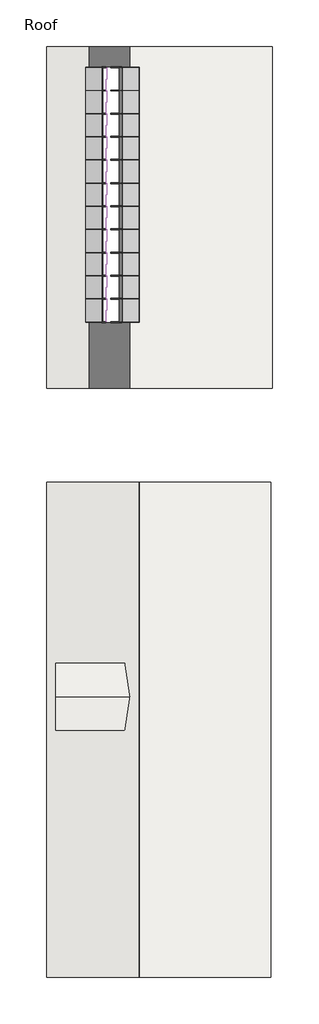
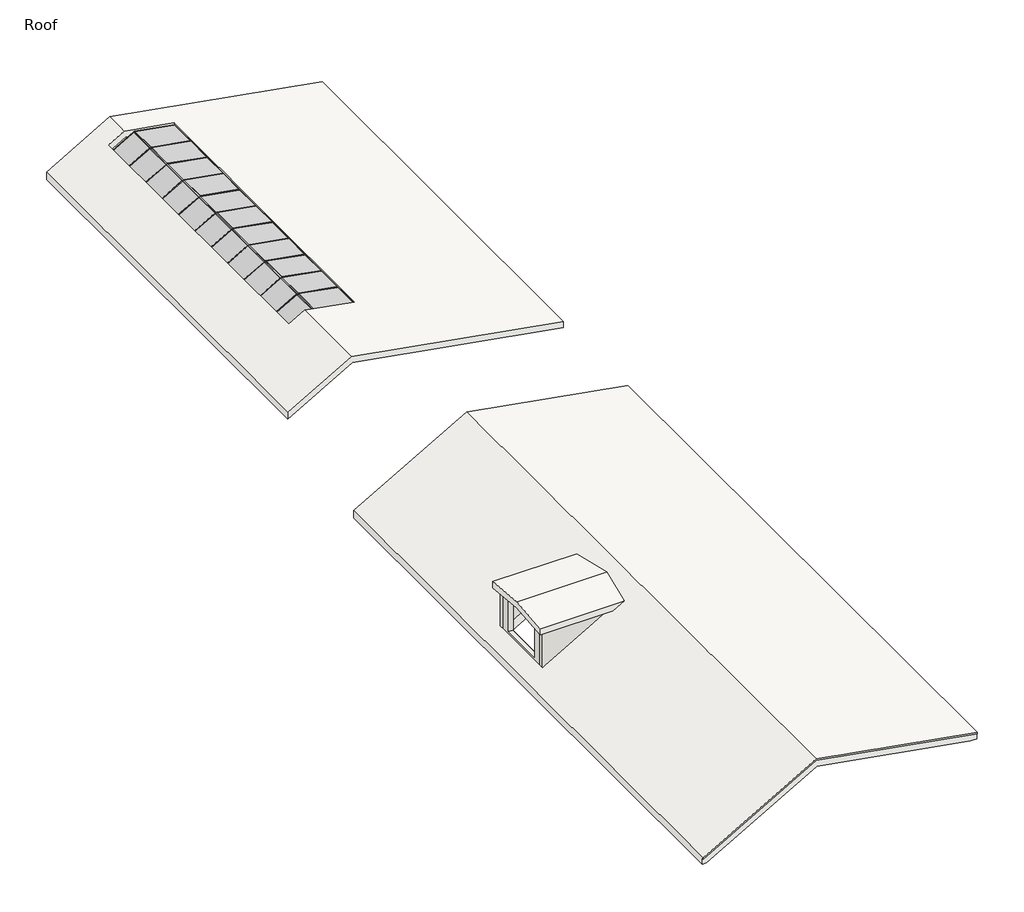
# One storey, incomplete: 57 members, 22 plates, 3 roofs, 3 walls.
"""IFC4 building model written with IfcOpenShell, lengths in millimetres."""

from ifc_helpers import new_model, si_unit, origin, place, context, project, spatial, faceted_brep, transform, mapped, element, save
from components import member_d7cafd72, member_a5deebae, member_a99f958b, member_c32c0941, member_48f43a20, member_13c44480, member_bfb63071, member_f87ed6db, member_73da9355, member_e1c899d2, system_panel_glazed_f9f6d654, system_panel_glazed_e8f19e38

model = new_model("IFC4")

# Units and contexts
model_context = context("Model", 3, world=origin())
ifc_project = project(units=[si_unit("LENGTHUNIT", "METRE", prefix="MILLI")], contexts=[model_context])

# Site, building, storey
site = spatial("IfcSite", under=ifc_project)
building = spatial("IfcBuilding", under=site)
storey = spatial("IfcBuildingStorey", under=building, Name="Roof", Elevation=6096.0)

# Members
placement = place(None, origin())
member_shape = member_d7cafd72(model_context)
element("IfcMember", 1, ObjectType="Quad Corner Mullion : 3\" x 1 1/2\" Quad Mullion", at=placement, inside=storey, context=model_context, shape_type="MappedRepresentation", body=[
    mapped(member_shape, transform((-4507.4611096, 25018.8084583, 7362.7570887), x_axis=(-0.9848077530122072, 0.0, 0.17364817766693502), y_axis=(-0.17364817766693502, 0.0, -0.9848077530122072), z_axis=(0.0, -1.0, 0.0))),
])
member_2_shape = member_a5deebae(model_context)
element("IfcMember", 2, ObjectType="Quad Corner Mullion : 3\" x 1 1/2\" Quad Mullion", at=placement, inside=storey, context=model_context, shape_type="MappedRepresentation", body=[
    mapped(member_2_shape, transform((-4507.4611096, 25910.6948222, 7362.7570887), x_axis=(-0.9848077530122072, 0.0, 0.17364817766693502), y_axis=(-0.17364817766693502, 0.0, -0.9848077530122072), z_axis=(0.0, -1.0, 0.0))),
])
element("IfcMember", 3, ObjectType="Quad Corner Mullion : 3\" x 1 1/2\" Quad Mullion", at=placement, inside=storey, context=model_context, shape_type="MappedRepresentation", body=[
    mapped(member_2_shape, transform((-4507.4611096, 26821.6311858, 7362.7570887), x_axis=(-0.9848077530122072, 0.0, 0.17364817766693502), y_axis=(-0.17364817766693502, 0.0, -0.9848077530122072), z_axis=(0.0, -1.0, 0.0))),
])
element("IfcMember", 4, ObjectType="Quad Corner Mullion : 3\" x 1 1/2\" Quad Mullion", at=placement, inside=storey, context=model_context, shape_type="MappedRepresentation", body=[
    mapped(member_2_shape, transform((-4507.4611096, 27732.5675493, 7362.7570887), x_axis=(-0.9848077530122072, 0.0, 0.17364817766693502), y_axis=(-0.17364817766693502, 0.0, -0.9848077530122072), z_axis=(0.0, -1.0, 0.0))),
])
element("IfcMember", 5, ObjectType="Quad Corner Mullion : 3\" x 1 1/2\" Quad Mullion", at=placement, inside=storey, context=model_context, shape_type="MappedRepresentation", body=[
    mapped(member_2_shape, transform((-4507.4611096, 28643.5039129, 7362.7570887), x_axis=(-0.9848077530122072, 0.0, 0.17364817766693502), y_axis=(-0.17364817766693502, 0.0, -0.9848077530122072), z_axis=(0.0, -1.0, 0.0))),
])
element("IfcMember", 6, ObjectType="Quad Corner Mullion : 3\" x 1 1/2\" Quad Mullion", at=placement, inside=storey, context=model_context, shape_type="MappedRepresentation", body=[
    mapped(member_2_shape, transform((-4507.4611096, 29554.4402765, 7362.7570887), x_axis=(-0.9848077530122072, 0.0, 0.17364817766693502), y_axis=(-0.17364817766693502, 0.0, -0.9848077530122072), z_axis=(0.0, -1.0, 0.0))),
])
element("IfcMember", 7, ObjectType="Quad Corner Mullion : 3\" x 1 1/2\" Quad Mullion", at=placement, inside=storey, context=model_context, shape_type="MappedRepresentation", body=[
    mapped(member_2_shape, transform((-4507.4611096, 30465.3766401, 7362.7570887), x_axis=(-0.9848077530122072, 0.0, 0.17364817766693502), y_axis=(-0.17364817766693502, 0.0, -0.9848077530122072), z_axis=(0.0, -1.0, 0.0))),
])
element("IfcMember", 8, ObjectType="Quad Corner Mullion : 3\" x 1 1/2\" Quad Mullion", at=placement, inside=storey, context=model_context, shape_type="MappedRepresentation", body=[
    mapped(member_2_shape, transform((-4507.4611096, 31376.3130037, 7362.7570887), x_axis=(-0.9848077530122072, 0.0, 0.17364817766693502), y_axis=(-0.17364817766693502, 0.0, -0.9848077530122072), z_axis=(0.0, -1.0, 0.0))),
])
element("IfcMember", 9, ObjectType="Quad Corner Mullion : 3\" x 1 1/2\" Quad Mullion", at=placement, inside=storey, context=model_context, shape_type="MappedRepresentation", body=[
    mapped(member_2_shape, transform((-4507.4611096, 32287.2493672, 7362.7570887), x_axis=(-0.9848077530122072, 0.0, 0.17364817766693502), y_axis=(-0.17364817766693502, 0.0, -0.9848077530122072), z_axis=(0.0, -1.0, 0.0))),
])
element("IfcMember", 10, ObjectType="Quad Corner Mullion : 3\" x 1 1/2\" Quad Mullion", at=placement, inside=storey, context=model_context, shape_type="MappedRepresentation", body=[
    mapped(member_2_shape, transform((-4507.4611096, 33198.1857308, 7362.7570887), x_axis=(-0.9848077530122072, 0.0, 0.17364817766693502), y_axis=(-0.17364817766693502, 0.0, -0.9848077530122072), z_axis=(0.0, -1.0, 0.0))),
])
element("IfcMember", 11, ObjectType="Quad Corner Mullion : 3\" x 1 1/2\" Quad Mullion", at=placement, inside=storey, context=model_context, shape_type="MappedRepresentation", body=[
    mapped(member_shape, transform((-4507.4611096, 34109.1220944, 7362.7570887), x_axis=(-0.9848077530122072, 0.0, 0.17364817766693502), y_axis=(-0.17364817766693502, 0.0, -0.9848077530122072), z_axis=(0.0, -1.0, 0.0))),
])
member_3_shape = member_a99f958b(model_context)
element("IfcMember", 12, ObjectType="Rectangular Mullion : 1.5\" x 3\" Rectangular", at=placement, inside=storey, context=model_context, shape_type="MappedRepresentation", body=[
    mapped(member_3_shape, transform((-3217.5401664, 35001.0084583, 7135.3092234), x_axis=(0.9848077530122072, 0.0, -0.17364817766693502), y_axis=(-0.17364817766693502, 0.0, -0.9848077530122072), z_axis=(0.0, 1.0, 0.0))),
])
element("IfcMember", 13, ObjectType="Rectangular Mullion : 1.5\" x 3\" Rectangular", at=placement, inside=storey, context=model_context, shape_type="MappedRepresentation", body=[
    mapped(member_3_shape, transform((-5351.1401664, 25018.8084583, 6875.6587582), x_axis=(-0.8660254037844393, 0.0, -0.49999999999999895), y_axis=(0.49999999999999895, 0.0, -0.8660254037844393), z_axis=(0.0, -1.0, 0.0))),
])
element("IfcMember", 14, ObjectType="Rectangular Mullion : 1.5\" x 3\" Rectangular", at=placement, inside=storey, context=model_context, shape_type="MappedRepresentation", body=[
    mapped(member_3_shape, transform((-3217.5401664, 25910.6948222, 7135.3092234), x_axis=(0.9848077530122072, 0.0, -0.17364817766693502), y_axis=(-0.17364817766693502, 0.0, -0.9848077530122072), z_axis=(0.0, 1.0, 0.0))),
])
element("IfcMember", 15, ObjectType="Rectangular Mullion : 1.5\" x 3\" Rectangular", at=placement, inside=storey, context=model_context, shape_type="MappedRepresentation", body=[
    mapped(member_3_shape, transform((-5351.1401664, 34109.1220944, 6875.6587582), x_axis=(-0.8660254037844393, 0.0, -0.49999999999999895), y_axis=(0.49999999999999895, 0.0, -0.8660254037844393), z_axis=(0.0, -1.0, 0.0))),
])
member_4_shape = member_c32c0941(model_context)
element("IfcMember", 16, ObjectType="Rectangular Mullion : 1.5\" x 3\" Rectangular", at=placement, inside=storey, context=model_context, shape_type="MappedRepresentation", body=[
    mapped(member_4_shape, transform((-3217.5401664, 26821.6311858, 7135.3092234), x_axis=(0.9848077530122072, 0.0, -0.17364817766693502), y_axis=(-0.17364817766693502, 0.0, -0.9848077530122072), z_axis=(0.0, 1.0, 0.0))),
])
element("IfcMember", 17, ObjectType="Rectangular Mullion : 1.5\" x 3\" Rectangular", at=placement, inside=storey, context=model_context, shape_type="MappedRepresentation", body=[
    mapped(member_4_shape, transform((-3217.5401664, 27732.5675493, 7135.3092234), x_axis=(0.9848077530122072, 0.0, -0.17364817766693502), y_axis=(-0.17364817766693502, 0.0, -0.9848077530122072), z_axis=(0.0, 1.0, 0.0))),
])
element("IfcMember", 18, ObjectType="Rectangular Mullion : 1.5\" x 3\" Rectangular", at=placement, inside=storey, context=model_context, shape_type="MappedRepresentation", body=[
    mapped(member_4_shape, transform((-3217.5401664, 28643.5039129, 7135.3092234), x_axis=(0.9848077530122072, 0.0, -0.17364817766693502), y_axis=(-0.17364817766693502, 0.0, -0.9848077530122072), z_axis=(0.0, 1.0, 0.0))),
])
element("IfcMember", 19, ObjectType="Rectangular Mullion : 1.5\" x 3\" Rectangular", at=placement, inside=storey, context=model_context, shape_type="MappedRepresentation", body=[
    mapped(member_4_shape, transform((-3217.5401664, 29554.4402765, 7135.3092234), x_axis=(0.9848077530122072, 0.0, -0.17364817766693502), y_axis=(-0.17364817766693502, 0.0, -0.9848077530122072), z_axis=(0.0, 1.0, 0.0))),
])
element("IfcMember", 20, ObjectType="Rectangular Mullion : 1.5\" x 3\" Rectangular", at=placement, inside=storey, context=model_context, shape_type="MappedRepresentation", body=[
    mapped(member_4_shape, transform((-3217.5401664, 30465.3766401, 7135.3092234), x_axis=(0.9848077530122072, 0.0, -0.17364817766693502), y_axis=(-0.17364817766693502, 0.0, -0.9848077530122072), z_axis=(0.0, 1.0, 0.0))),
])
element("IfcMember", 21, ObjectType="Rectangular Mullion : 1.5\" x 3\" Rectangular", at=placement, inside=storey, context=model_context, shape_type="MappedRepresentation", body=[
    mapped(member_4_shape, transform((-3217.5401664, 31376.3130037, 7135.3092234), x_axis=(0.9848077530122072, 0.0, -0.17364817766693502), y_axis=(-0.17364817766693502, 0.0, -0.9848077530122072), z_axis=(0.0, 1.0, 0.0))),
])
element("IfcMember", 22, ObjectType="Rectangular Mullion : 1.5\" x 3\" Rectangular", at=placement, inside=storey, context=model_context, shape_type="MappedRepresentation", body=[
    mapped(member_4_shape, transform((-3217.5401664, 32287.2493672, 7135.3092234), x_axis=(0.9848077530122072, 0.0, -0.17364817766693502), y_axis=(-0.17364817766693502, 0.0, -0.9848077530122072), z_axis=(0.0, 1.0, 0.0))),
])
element("IfcMember", 23, ObjectType="Rectangular Mullion : 1.5\" x 3\" Rectangular", at=placement, inside=storey, context=model_context, shape_type="MappedRepresentation", body=[
    mapped(member_4_shape, transform((-3217.5401664, 33198.1857308, 7135.3092234), x_axis=(0.9848077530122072, 0.0, -0.17364817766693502), y_axis=(-0.17364817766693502, 0.0, -0.9848077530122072), z_axis=(0.0, 1.0, 0.0))),
])
element("IfcMember", 24, ObjectType="Rectangular Mullion : 1.5\" x 3\" Rectangular", at=placement, inside=storey, context=model_context, shape_type="MappedRepresentation", body=[
    mapped(member_4_shape, transform((-3217.5401664, 34109.1220944, 7135.3092234), x_axis=(0.9848077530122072, 0.0, -0.17364817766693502), y_axis=(-0.17364817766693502, 0.0, -0.9848077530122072), z_axis=(0.0, 1.0, 0.0))),
])
element("IfcMember", 25, ObjectType="Rectangular Mullion : 1.5\" x 3\" Rectangular", at=placement, inside=storey, context=model_context, shape_type="MappedRepresentation", body=[
    mapped(member_4_shape, transform((-5351.1401664, 25910.6948222, 6875.6587582), x_axis=(-0.8660254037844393, 0.0, -0.49999999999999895), y_axis=(0.49999999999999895, 0.0, -0.8660254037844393), z_axis=(0.0, -1.0, 0.0))),
])
element("IfcMember", 26, ObjectType="Rectangular Mullion : 1.5\" x 3\" Rectangular", at=placement, inside=storey, context=model_context, shape_type="MappedRepresentation", body=[
    mapped(member_4_shape, transform((-5351.1401664, 26821.6311858, 6875.6587582), x_axis=(-0.8660254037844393, 0.0, -0.49999999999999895), y_axis=(0.49999999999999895, 0.0, -0.8660254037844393), z_axis=(0.0, -1.0, 0.0))),
])
element("IfcMember", 27, ObjectType="Rectangular Mullion : 1.5\" x 3\" Rectangular", at=placement, inside=storey, context=model_context, shape_type="MappedRepresentation", body=[
    mapped(member_4_shape, transform((-5351.1401664, 27732.5675493, 6875.6587582), x_axis=(-0.8660254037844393, 0.0, -0.49999999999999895), y_axis=(0.49999999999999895, 0.0, -0.8660254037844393), z_axis=(0.0, -1.0, 0.0))),
])
element("IfcMember", 28, ObjectType="Rectangular Mullion : 1.5\" x 3\" Rectangular", at=placement, inside=storey, context=model_context, shape_type="MappedRepresentation", body=[
    mapped(member_4_shape, transform((-5351.1401664, 28643.5039129, 6875.6587582), x_axis=(-0.8660254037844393, 0.0, -0.49999999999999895), y_axis=(0.49999999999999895, 0.0, -0.8660254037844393), z_axis=(0.0, -1.0, 0.0))),
])
element("IfcMember", 29, ObjectType="Rectangular Mullion : 1.5\" x 3\" Rectangular", at=placement, inside=storey, context=model_context, shape_type="MappedRepresentation", body=[
    mapped(member_4_shape, transform((-5351.1401664, 29554.4402765, 6875.6587582), x_axis=(-0.8660254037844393, 0.0, -0.49999999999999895), y_axis=(0.49999999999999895, 0.0, -0.8660254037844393), z_axis=(0.0, -1.0, 0.0))),
])
element("IfcMember", 30, ObjectType="Rectangular Mullion : 1.5\" x 3\" Rectangular", at=placement, inside=storey, context=model_context, shape_type="MappedRepresentation", body=[
    mapped(member_4_shape, transform((-5351.1401664, 30465.3766401, 6875.6587582), x_axis=(-0.8660254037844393, 0.0, -0.49999999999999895), y_axis=(0.49999999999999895, 0.0, -0.8660254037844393), z_axis=(0.0, -1.0, 0.0))),
])
element("IfcMember", 31, ObjectType="Rectangular Mullion : 1.5\" x 3\" Rectangular", at=placement, inside=storey, context=model_context, shape_type="MappedRepresentation", body=[
    mapped(member_4_shape, transform((-5351.1401664, 31376.3130037, 6875.6587582), x_axis=(-0.8660254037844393, 0.0, -0.49999999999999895), y_axis=(0.49999999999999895, 0.0, -0.8660254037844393), z_axis=(0.0, -1.0, 0.0))),
])
element("IfcMember", 32, ObjectType="Rectangular Mullion : 1.5\" x 3\" Rectangular", at=placement, inside=storey, context=model_context, shape_type="MappedRepresentation", body=[
    mapped(member_4_shape, transform((-5351.1401664, 32287.2493672, 6875.6587582), x_axis=(-0.8660254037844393, 0.0, -0.49999999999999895), y_axis=(0.49999999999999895, 0.0, -0.8660254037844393), z_axis=(0.0, -1.0, 0.0))),
])
element("IfcMember", 33, ObjectType="Rectangular Mullion : 1.5\" x 3\" Rectangular", at=placement, inside=storey, context=model_context, shape_type="MappedRepresentation", body=[
    mapped(member_4_shape, transform((-5351.1401664, 33198.1857308, 6875.6587582), x_axis=(-0.8660254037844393, 0.0, -0.49999999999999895), y_axis=(0.49999999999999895, 0.0, -0.8660254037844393), z_axis=(0.0, -1.0, 0.0))),
])
member_5_shape = member_48f43a20(model_context)
element("IfcMember", 34, ObjectType="Rectangular Mullion : 1.5\" x 3\" Rectangular", at=placement, inside=storey, context=model_context, shape_type="MappedRepresentation", body=[
    mapped(member_5_shape, transform((-4504.0009995, 25910.6948222, 7362.1469779), x_axis=(0.0, 1.0, 0.0), y_axis=(-0.17364817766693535, 0.0, -0.9848077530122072), z_axis=(-0.984807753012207, 0.0, 0.17364817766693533))),
])
element("IfcMember", 35, ObjectType="Rectangular Mullion : 1.5\" x 3\" Rectangular", at=placement, inside=storey, context=model_context, shape_type="MappedRepresentation", body=[
    mapped(member_5_shape, transform((-4504.0009995, 26821.6311858, 7362.1469779), x_axis=(0.0, 1.0, 0.0), y_axis=(-0.17364817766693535, 0.0, -0.9848077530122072), z_axis=(-0.984807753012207, 0.0, 0.17364817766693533))),
])
element("IfcMember", 36, ObjectType="Rectangular Mullion : 1.5\" x 3\" Rectangular", at=placement, inside=storey, context=model_context, shape_type="MappedRepresentation", body=[
    mapped(member_5_shape, transform((-4504.0009995, 27732.5675493, 7362.1469779), x_axis=(0.0, 1.0, 0.0), y_axis=(-0.17364817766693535, 0.0, -0.9848077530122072), z_axis=(-0.984807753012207, 0.0, 0.17364817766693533))),
])
element("IfcMember", 37, ObjectType="Rectangular Mullion : 1.5\" x 3\" Rectangular", at=placement, inside=storey, context=model_context, shape_type="MappedRepresentation", body=[
    mapped(member_5_shape, transform((-4504.0009995, 28643.5039129, 7362.1469779), x_axis=(0.0, 1.0, 0.0), y_axis=(-0.17364817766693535, 0.0, -0.9848077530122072), z_axis=(-0.984807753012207, 0.0, 0.17364817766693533))),
])
element("IfcMember", 38, ObjectType="Rectangular Mullion : 1.5\" x 3\" Rectangular", at=placement, inside=storey, context=model_context, shape_type="MappedRepresentation", body=[
    mapped(member_5_shape, transform((-4504.0009995, 29554.4402765, 7362.1469779), x_axis=(0.0, 1.0, 0.0), y_axis=(-0.17364817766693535, 0.0, -0.9848077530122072), z_axis=(-0.984807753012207, 0.0, 0.17364817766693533))),
])
element("IfcMember", 39, ObjectType="Rectangular Mullion : 1.5\" x 3\" Rectangular", at=placement, inside=storey, context=model_context, shape_type="MappedRepresentation", body=[
    mapped(member_5_shape, transform((-4504.0009995, 30465.3766401, 7362.1469779), x_axis=(0.0, 1.0, 0.0), y_axis=(-0.17364817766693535, 0.0, -0.9848077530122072), z_axis=(-0.984807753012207, 0.0, 0.17364817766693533))),
])
element("IfcMember", 40, ObjectType="Rectangular Mullion : 1.5\" x 3\" Rectangular", at=placement, inside=storey, context=model_context, shape_type="MappedRepresentation", body=[
    mapped(member_5_shape, transform((-4504.0009995, 31376.3130037, 7362.1469779), x_axis=(0.0, 1.0, 0.0), y_axis=(-0.17364817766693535, 0.0, -0.9848077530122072), z_axis=(-0.984807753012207, 0.0, 0.17364817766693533))),
])
element("IfcMember", 41, ObjectType="Rectangular Mullion : 1.5\" x 3\" Rectangular", at=placement, inside=storey, context=model_context, shape_type="MappedRepresentation", body=[
    mapped(member_5_shape, transform((-4504.0009995, 32287.2493672, 7362.1469779), x_axis=(0.0, 1.0, 0.0), y_axis=(-0.17364817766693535, 0.0, -0.9848077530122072), z_axis=(-0.984807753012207, 0.0, 0.17364817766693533))),
])
element("IfcMember", 42, ObjectType="Rectangular Mullion : 1.5\" x 3\" Rectangular", at=placement, inside=storey, context=model_context, shape_type="MappedRepresentation", body=[
    mapped(member_5_shape, transform((-4504.0009995, 33198.1857308, 7362.1469779), x_axis=(0.0, 1.0, 0.0), y_axis=(-0.17364817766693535, 0.0, -0.9848077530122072), z_axis=(-0.984807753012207, 0.0, 0.17364817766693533))),
])
element("IfcMember", 43, ObjectType="Rectangular Mullion : 1.5\" x 3\" Rectangular", at=placement, inside=storey, context=model_context, shape_type="MappedRepresentation", body=[
    mapped(member_5_shape, transform((-4504.0009995, 34109.1220944, 7362.1469779), x_axis=(0.0, 1.0, 0.0), y_axis=(-0.17364817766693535, 0.0, -0.9848077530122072), z_axis=(-0.984807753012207, 0.0, 0.17364817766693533))),
])
member_6_shape = member_13c44480(model_context)
element("IfcMember", 44, ObjectType="Rectangular Mullion : 1.5\" x 3\" Rectangular", at=placement, inside=storey, context=model_context, shape_type="MappedRepresentation", body=[
    mapped(member_6_shape, transform((-3217.5401664, 24980.7084583, 7135.3092234), x_axis=(0.0, -1.0, 0.0), y_axis=(-0.17364817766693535, 0.0, -0.9848077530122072), z_axis=(0.984807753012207, 0.0, -0.17364817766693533))),
])
member_7_shape = member_bfb63071(model_context)
element("IfcMember", 45, ObjectType="Rectangular Mullion : 1.5\" x 3\" Rectangular", at=placement, inside=storey, context=model_context, shape_type="MappedRepresentation", body=[
    mapped(member_7_shape, transform((-4507.4611096, 35039.1084583, 7362.7570887), x_axis=(0.0, 1.0, 0.0), y_axis=(-0.17364817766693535, 0.0, -0.9848077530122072), z_axis=(-0.984807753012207, 0.0, 0.17364817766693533))),
])
member_8_shape = member_f87ed6db(model_context)
element("IfcMember", 46, ObjectType="Rectangular Mullion : 1.5\" x 3\" Rectangular", at=placement, inside=storey, context=model_context, shape_type="MappedRepresentation", body=[
    mapped(member_8_shape, transform((-5318.1445985, 25910.6948222, 6894.7087582), x_axis=(0.0, 1.0, 0.0), y_axis=(0.4999999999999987, 0.0, -0.8660254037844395), z_axis=(-0.8660254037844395, 0.0, -0.4999999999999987))),
])
element("IfcMember", 47, ObjectType="Rectangular Mullion : 1.5\" x 3\" Rectangular", at=placement, inside=storey, context=model_context, shape_type="MappedRepresentation", body=[
    mapped(member_8_shape, transform((-5318.1445985, 26821.6311858, 6894.7087582), x_axis=(0.0, 1.0, 0.0), y_axis=(0.4999999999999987, 0.0, -0.8660254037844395), z_axis=(-0.8660254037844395, 0.0, -0.4999999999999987))),
])
element("IfcMember", 48, ObjectType="Rectangular Mullion : 1.5\" x 3\" Rectangular", at=placement, inside=storey, context=model_context, shape_type="MappedRepresentation", body=[
    mapped(member_8_shape, transform((-5318.1445985, 27732.5675493, 6894.7087582), x_axis=(0.0, 1.0, 0.0), y_axis=(0.4999999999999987, 0.0, -0.8660254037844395), z_axis=(-0.8660254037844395, 0.0, -0.4999999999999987))),
])
element("IfcMember", 49, ObjectType="Rectangular Mullion : 1.5\" x 3\" Rectangular", at=placement, inside=storey, context=model_context, shape_type="MappedRepresentation", body=[
    mapped(member_8_shape, transform((-5318.1445985, 28643.5039129, 6894.7087582), x_axis=(0.0, 1.0, 0.0), y_axis=(0.4999999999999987, 0.0, -0.8660254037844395), z_axis=(-0.8660254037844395, 0.0, -0.4999999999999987))),
])
element("IfcMember", 50, ObjectType="Rectangular Mullion : 1.5\" x 3\" Rectangular", at=placement, inside=storey, context=model_context, shape_type="MappedRepresentation", body=[
    mapped(member_8_shape, transform((-5318.1445985, 29554.4402765, 6894.7087582), x_axis=(0.0, 1.0, 0.0), y_axis=(0.4999999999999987, 0.0, -0.8660254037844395), z_axis=(-0.8660254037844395, 0.0, -0.4999999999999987))),
])
element("IfcMember", 51, ObjectType="Rectangular Mullion : 1.5\" x 3\" Rectangular", at=placement, inside=storey, context=model_context, shape_type="MappedRepresentation", body=[
    mapped(member_8_shape, transform((-5318.1445985, 30465.3766401, 6894.7087582), x_axis=(0.0, 1.0, 0.0), y_axis=(0.4999999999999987, 0.0, -0.8660254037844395), z_axis=(-0.8660254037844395, 0.0, -0.4999999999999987))),
])
element("IfcMember", 52, ObjectType="Rectangular Mullion : 1.5\" x 3\" Rectangular", at=placement, inside=storey, context=model_context, shape_type="MappedRepresentation", body=[
    mapped(member_8_shape, transform((-5318.1445985, 31376.3130037, 6894.7087582), x_axis=(0.0, 1.0, 0.0), y_axis=(0.4999999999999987, 0.0, -0.8660254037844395), z_axis=(-0.8660254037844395, 0.0, -0.4999999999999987))),
])
element("IfcMember", 53, ObjectType="Rectangular Mullion : 1.5\" x 3\" Rectangular", at=placement, inside=storey, context=model_context, shape_type="MappedRepresentation", body=[
    mapped(member_8_shape, transform((-5318.1445985, 32287.2493672, 6894.7087582), x_axis=(0.0, 1.0, 0.0), y_axis=(0.4999999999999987, 0.0, -0.8660254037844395), z_axis=(-0.8660254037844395, 0.0, -0.4999999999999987))),
])
element("IfcMember", 54, ObjectType="Rectangular Mullion : 1.5\" x 3\" Rectangular", at=placement, inside=storey, context=model_context, shape_type="MappedRepresentation", body=[
    mapped(member_8_shape, transform((-5318.1445985, 33198.1857308, 6894.7087582), x_axis=(0.0, 1.0, 0.0), y_axis=(0.4999999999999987, 0.0, -0.8660254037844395), z_axis=(-0.8660254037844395, 0.0, -0.4999999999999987))),
])
element("IfcMember", 55, ObjectType="Rectangular Mullion : 1.5\" x 3\" Rectangular", at=placement, inside=storey, context=model_context, shape_type="MappedRepresentation", body=[
    mapped(member_8_shape, transform((-5318.1445985, 34109.1220944, 6894.7087582), x_axis=(0.0, 1.0, 0.0), y_axis=(0.4999999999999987, 0.0, -0.8660254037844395), z_axis=(-0.8660254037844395, 0.0, -0.4999999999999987))),
])
member_9_shape = member_73da9355(model_context)
element("IfcMember", 56, ObjectType="Rectangular Mullion : 1.5\" x 3\" Rectangular", at=placement, inside=storey, context=model_context, shape_type="MappedRepresentation", body=[
    mapped(member_9_shape, transform((-4507.4611096, 24980.7084583, 7362.7570887), x_axis=(0.0, -1.0, 0.0), y_axis=(0.4999999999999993, 0.0, -0.866025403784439), z_axis=(0.866025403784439, 0.0, 0.4999999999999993))),
])
member_10_shape = member_e1c899d2(model_context)
element("IfcMember", 57, ObjectType="Rectangular Mullion : 1.5\" x 3\" Rectangular", at=placement, inside=storey, context=model_context, shape_type="MappedRepresentation", body=[
    mapped(member_10_shape, transform((-5351.1401664, 35039.1084583, 6875.6587582), x_axis=(0.0, 1.0, 0.0), y_axis=(0.4999999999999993, 0.0, -0.866025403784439), z_axis=(-0.866025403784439, 0.0, -0.4999999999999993))),
])

# Plates
system_panel_glazed_shape = system_panel_glazed_f9f6d654(model_context)
element("IfcPlate", 58, ObjectType="System Panel : Glazed", at=placement, inside=storey, context=model_context, shape_type="MappedRepresentation", body=[
    mapped(system_panel_glazed_shape, transform((-4504.0009995, 25455.2266402, 7362.1469779), x_axis=(0.0, 1.0, 0.0), y_axis=(0.17364817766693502, 0.0, 0.9848077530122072), z_axis=(0.9848077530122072, 0.0, -0.17364817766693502))),
])
element("IfcPlate", 59, ObjectType="System Panel : Glazed", at=placement, inside=storey, context=model_context, shape_type="MappedRepresentation", body=[
    mapped(system_panel_glazed_shape, transform((-4504.0009995, 26366.163004, 7362.1469779), x_axis=(0.0, 1.0, 0.0), y_axis=(0.17364817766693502, 0.0, 0.9848077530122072), z_axis=(0.9848077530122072, 0.0, -0.17364817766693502))),
])
element("IfcPlate", 60, ObjectType="System Panel : Glazed", at=placement, inside=storey, context=model_context, shape_type="MappedRepresentation", body=[
    mapped(system_panel_glazed_shape, transform((-4504.0009995, 27277.0993675, 7362.1469779), x_axis=(0.0, 1.0, 0.0), y_axis=(0.17364817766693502, 0.0, 0.9848077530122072), z_axis=(0.9848077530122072, 0.0, -0.17364817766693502))),
])
element("IfcPlate", 61, ObjectType="System Panel : Glazed", at=placement, inside=storey, context=model_context, shape_type="MappedRepresentation", body=[
    mapped(system_panel_glazed_shape, transform((-4504.0009995, 28188.0357311, 7362.1469779), x_axis=(0.0, 1.0, 0.0), y_axis=(0.17364817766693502, 0.0, 0.9848077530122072), z_axis=(0.9848077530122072, 0.0, -0.17364817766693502))),
])
element("IfcPlate", 62, ObjectType="System Panel : Glazed", at=placement, inside=storey, context=model_context, shape_type="MappedRepresentation", body=[
    mapped(system_panel_glazed_shape, transform((-4504.0009995, 29098.9720947, 7362.1469779), x_axis=(0.0, 1.0, 0.0), y_axis=(0.17364817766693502, 0.0, 0.9848077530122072), z_axis=(0.9848077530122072, 0.0, -0.17364817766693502))),
])
element("IfcPlate", 63, ObjectType="System Panel : Glazed", at=placement, inside=storey, context=model_context, shape_type="MappedRepresentation", body=[
    mapped(system_panel_glazed_shape, transform((-4504.0009995, 30009.9084583, 7362.1469779), x_axis=(0.0, 1.0, 0.0), y_axis=(0.17364817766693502, 0.0, 0.9848077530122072), z_axis=(0.9848077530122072, 0.0, -0.17364817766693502))),
])
element("IfcPlate", 64, ObjectType="System Panel : Glazed", at=placement, inside=storey, context=model_context, shape_type="MappedRepresentation", body=[
    mapped(system_panel_glazed_shape, transform((-4504.0009995, 30920.8448219, 7362.1469779), x_axis=(0.0, 1.0, 0.0), y_axis=(0.17364817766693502, 0.0, 0.9848077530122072), z_axis=(0.9848077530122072, 0.0, -0.17364817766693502))),
])
element("IfcPlate", 65, ObjectType="System Panel : Glazed", at=placement, inside=storey, context=model_context, shape_type="MappedRepresentation", body=[
    mapped(system_panel_glazed_shape, transform((-4504.0009995, 31831.7811854, 7362.1469779), x_axis=(0.0, 1.0, 0.0), y_axis=(0.17364817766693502, 0.0, 0.9848077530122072), z_axis=(0.9848077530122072, 0.0, -0.17364817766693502))),
])
element("IfcPlate", 66, ObjectType="System Panel : Glazed", at=placement, inside=storey, context=model_context, shape_type="MappedRepresentation", body=[
    mapped(system_panel_glazed_shape, transform((-4504.0009995, 32742.717549, 7362.1469779), x_axis=(0.0, 1.0, 0.0), y_axis=(0.17364817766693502, 0.0, 0.9848077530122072), z_axis=(0.9848077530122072, 0.0, -0.17364817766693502))),
])
element("IfcPlate", 67, ObjectType="System Panel : Glazed", at=placement, inside=storey, context=model_context, shape_type="MappedRepresentation", body=[
    mapped(system_panel_glazed_shape, transform((-4504.0009995, 33653.6539126, 7362.1469779), x_axis=(0.0, 1.0, 0.0), y_axis=(0.17364817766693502, 0.0, 0.9848077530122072), z_axis=(0.9848077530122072, 0.0, -0.17364817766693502))),
])
element("IfcPlate", 68, ObjectType="System Panel : Glazed", at=placement, inside=storey, context=model_context, shape_type="MappedRepresentation", body=[
    mapped(system_panel_glazed_shape, transform((-4504.0009995, 34564.5902763, 7362.1469779), x_axis=(0.0, 1.0, 0.0), y_axis=(0.17364817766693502, 0.0, 0.9848077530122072), z_axis=(0.9848077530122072, 0.0, -0.17364817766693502))),
])
system_panel_glazed_2_shape = system_panel_glazed_e8f19e38(model_context)
element("IfcPlate", 69, ObjectType="System Panel : Glazed", at=placement, inside=storey, context=model_context, shape_type="MappedRepresentation", body=[
    mapped(system_panel_glazed_2_shape, transform((-5318.1445985, 25455.2266402, 6894.7087582), x_axis=(0.0, 1.0, 0.0), y_axis=(-0.49999999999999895, 0.0, 0.8660254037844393), z_axis=(0.8660254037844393, 0.0, 0.49999999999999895))),
])
element("IfcPlate", 70, ObjectType="System Panel : Glazed", at=placement, inside=storey, context=model_context, shape_type="MappedRepresentation", body=[
    mapped(system_panel_glazed_2_shape, transform((-5318.1445985, 26366.163004, 6894.7087582), x_axis=(0.0, 1.0, 0.0), y_axis=(-0.49999999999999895, 0.0, 0.8660254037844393), z_axis=(0.8660254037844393, 0.0, 0.49999999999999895))),
])
element("IfcPlate", 71, ObjectType="System Panel : Glazed", at=placement, inside=storey, context=model_context, shape_type="MappedRepresentation", body=[
    mapped(system_panel_glazed_2_shape, transform((-5318.1445985, 27277.0993675, 6894.7087582), x_axis=(0.0, 1.0, 0.0), y_axis=(-0.49999999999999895, 0.0, 0.8660254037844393), z_axis=(0.8660254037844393, 0.0, 0.49999999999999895))),
])
element("IfcPlate", 72, ObjectType="System Panel : Glazed", at=placement, inside=storey, context=model_context, shape_type="MappedRepresentation", body=[
    mapped(system_panel_glazed_2_shape, transform((-5318.1445985, 28188.0357311, 6894.7087582), x_axis=(0.0, 1.0, 0.0), y_axis=(-0.49999999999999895, 0.0, 0.8660254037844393), z_axis=(0.8660254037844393, 0.0, 0.49999999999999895))),
])
element("IfcPlate", 73, ObjectType="System Panel : Glazed", at=placement, inside=storey, context=model_context, shape_type="MappedRepresentation", body=[
    mapped(system_panel_glazed_2_shape, transform((-5318.1445985, 29098.9720947, 6894.7087582), x_axis=(0.0, 1.0, 0.0), y_axis=(-0.49999999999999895, 0.0, 0.8660254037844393), z_axis=(0.8660254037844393, 0.0, 0.49999999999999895))),
])
element("IfcPlate", 74, ObjectType="System Panel : Glazed", at=placement, inside=storey, context=model_context, shape_type="MappedRepresentation", body=[
    mapped(system_panel_glazed_2_shape, transform((-5318.1445985, 30009.9084583, 6894.7087582), x_axis=(0.0, 1.0, 0.0), y_axis=(-0.49999999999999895, 0.0, 0.8660254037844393), z_axis=(0.8660254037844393, 0.0, 0.49999999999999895))),
])
element("IfcPlate", 75, ObjectType="System Panel : Glazed", at=placement, inside=storey, context=model_context, shape_type="MappedRepresentation", body=[
    mapped(system_panel_glazed_2_shape, transform((-5318.1445985, 30920.8448219, 6894.7087582), x_axis=(0.0, 1.0, 0.0), y_axis=(-0.49999999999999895, 0.0, 0.8660254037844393), z_axis=(0.8660254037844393, 0.0, 0.49999999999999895))),
])
element("IfcPlate", 76, ObjectType="System Panel : Glazed", at=placement, inside=storey, context=model_context, shape_type="MappedRepresentation", body=[
    mapped(system_panel_glazed_2_shape, transform((-5318.1445985, 31831.7811854, 6894.7087582), x_axis=(0.0, 1.0, 0.0), y_axis=(-0.49999999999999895, 0.0, 0.8660254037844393), z_axis=(0.8660254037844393, 0.0, 0.49999999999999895))),
])
element("IfcPlate", 77, ObjectType="System Panel : Glazed", at=placement, inside=storey, context=model_context, shape_type="MappedRepresentation", body=[
    mapped(system_panel_glazed_2_shape, transform((-5318.1445985, 32742.717549, 6894.7087582), x_axis=(0.0, 1.0, 0.0), y_axis=(-0.49999999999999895, 0.0, 0.8660254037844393), z_axis=(0.8660254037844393, 0.0, 0.49999999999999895))),
])
element("IfcPlate", 78, ObjectType="System Panel : Glazed", at=placement, inside=storey, context=model_context, shape_type="MappedRepresentation", body=[
    mapped(system_panel_glazed_2_shape, transform((-5318.1445985, 33653.6539126, 6894.7087582), x_axis=(0.0, 1.0, 0.0), y_axis=(-0.49999999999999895, 0.0, 0.8660254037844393), z_axis=(0.8660254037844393, 0.0, 0.49999999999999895))),
])
element("IfcPlate", 79, ObjectType="System Panel : Glazed", at=placement, inside=storey, context=model_context, shape_type="MappedRepresentation", body=[
    mapped(system_panel_glazed_2_shape, transform((-5318.1445985, 34564.5902763, 6894.7087582), x_axis=(0.0, 1.0, 0.0), y_axis=(-0.49999999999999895, 0.0, 0.8660254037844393), z_axis=(0.8660254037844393, 0.0, 0.49999999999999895))),
])

# Roofs
element("IfcRoof", 80, ObjectType="Wood Rafter 10\" - Asphalt Shingle - Insulated", at=placement, inside=storey, context=model_context, shape_type="Brep", body=[
    faceted_brep([(-6743.5810715, 18706.9084583, 4952.7556788), (-3192.4628724, 18706.9084583, 7002.994727), (-3192.4628724, -731.3486846, 7002.994727), (-6743.5810715, -731.3486846, 4952.7556788), (-6202.0401664, 9245.4084583, 5265.4144662), (-3552.4894729, 9245.4084583, 6795.1332723), (-3398.2551782, 10263.222744, 6884.1804839), (-3552.4894729, 11281.0370297, 6795.1332723), (-6202.0401664, 11281.0370297, 5265.4144662), (1746.2967502, 18706.9084583, 6132.1581543), (1746.2967502, -731.3486846, 6132.1581543), (-6875.1401664, 18706.9084583, 5206.7556788), (-6875.1401664, -782.1486846, 5206.7556788), (-3245.2673381, -782.1486846, 7302.4637334), (-3245.2673381, 18706.9084583, 7302.4637334), (-4123.9894729, 9245.4084583, 6795.1332723), (-6202.0401664, 9245.4084583, 5595.370145), (-6202.0401664, 11281.0370297, 5595.370145), (-4123.9894729, 11281.0370297, 6795.1332723), (-3969.7551782, 10263.222744, 6884.1804839), (1951.3598336, -782.1486846, 6386.1581543), (1951.3598336, 18706.9084583, 6386.1581543), (1951.3598336, -782.1486846, 6334.5744825), (1951.3598336, -731.3486846, 6334.5744825), (1951.3598336, -731.3486846, 6132.1581543), (1951.3598336, 18706.9084583, 6132.1581543), (-6875.1401664, 18706.9084583, 4952.7556788), (-6875.1401664, -731.3486846, 4952.7556788), (-6875.1401664, -731.3486846, 5148.0968915), (-6875.1401664, -782.1486846, 5148.0968915), (-3235.8798775, -782.1486846, 7249.2247989), (-3235.8798775, -731.3486846, 7249.2247989)], [[[0, 1, 2, 3], [4, 5, 6, 7, 8]], [[1, 9, 10, 2]], [[11, 12, 13, 14], [15, 16, 17, 18, 19]], [[20, 21, 14, 13]], [[21, 20, 22, 23, 24, 25]], [[12, 11, 26, 27, 28, 29]], [[9, 25, 24, 10]], [[26, 0, 3, 27]], [[13, 12, 29, 30, 22, 20]], [[1, 0, 26, 11, 14, 21, 25, 9]], [[15, 5, 4, 16]], [[16, 4, 8, 17]], [[17, 8, 7, 18]], [[18, 7, 6, 19]], [[5, 15, 19, 6]], [[23, 31, 28, 27, 3, 2, 10, 24]], [[28, 31, 30, 29]], [[31, 23, 22, 30]]]),
])
element("IfcRoof", 81, ObjectType="Wood Rafter 8\" - Asphalt Shingle - Insulated", at=placement, inside=storey, context=model_context, shape_type="Brep", body=[
    faceted_brep([(-4798.2465013, 22389.0013154, 7295.0951166), (-6875.1401664, 22389.0013154, 6096.0), (-6875.1401664, 35838.3013154, 6096.0), (-4798.2465013, 35838.3013154, 7295.0951166), (-4798.2465013, 35039.1084583, 7295.0951166), (-5351.1401664, 35039.1084583, 6975.8818102), (-5351.1401664, 24980.7084583, 6975.8818102), (-4798.2465013, 24980.7084583, 7295.0951166), (2002.1598336, 22389.0013154, 6096.0), (-3217.5401664, 24980.7084583, 7016.3739412), (-3217.5401664, 35039.1084583, 7016.3739412), (2002.1598336, 35838.3013154, 6096.0), (-6875.1401664, 35838.3013154, 6341.633672), (-6875.1401664, 22389.0013154, 6341.633672), (-4837.5564925, 22389.0013154, 7518.0331547), (-4837.5564925, 24980.7084583, 7518.0331547), (-5351.1401664, 24980.7084583, 7221.5154823), (-5351.1401664, 35039.1084583, 7221.5154823), (-4837.5564925, 35039.1084583, 7518.0331547), (-4837.5564925, 35838.3013154, 7518.0331547), (2002.1598336, 22389.0013154, 6312.006626), (2002.1598336, 35838.3013154, 6312.006626), (-3217.5401664, 35039.1084583, 7232.3805672), (-3217.5401664, 24980.7084583, 7232.3805672)], [[[0, 1, 2, 3, 4, 5, 6, 7]], [[8, 0, 7, 9, 10, 4, 3, 11]], [[12, 13, 14, 15, 16, 17, 18, 19]], [[20, 21, 19, 18, 22, 23, 15, 14]], [[21, 20, 8, 11]], [[13, 12, 2, 1]], [[1, 0, 8, 20, 14, 13]], [[3, 2, 12, 19, 21, 11]], [[10, 22, 18, 17, 5, 4]], [[5, 17, 16, 6]], [[6, 16, 15, 23, 9, 7]], [[22, 10, 9, 23]]]),
])
element("IfcRoof", 82, ObjectType="Wood Rafter 8\" - Asphalt Shingle - Insulated", at=placement, inside=storey, context=model_context, shape_type="Brep", body=[
    faceted_brep([(-6506.8401664, 10263.222744, 6884.1804839), (-6506.8401664, 11585.8370297, 6768.4667277), (-4170.1772831, 11585.8370297, 6768.4667277), (-3969.7551782, 10263.222744, 6884.1804839), (-4170.1772831, 8940.6084583, 6768.4667277), (-6506.8401664, 8940.6084583, 6768.4667277), (-6506.8401664, 11585.8370297, 6982.0043026), (-6506.8401664, 10263.222744, 7097.7180588), (-3599.8972491, 10263.222744, 7097.7180588), (-3800.319354, 11585.8370297, 6982.0043026), (-6506.8401664, 8940.6084583, 6982.0043026), (-3800.319354, 8940.6084583, 6982.0043026)], [[[0, 1, 2, 3]], [[4, 5, 0, 3]], [[6, 7, 8, 9]], [[10, 11, 8, 7]], [[4, 11, 10, 5]], [[1, 6, 9, 2]], [[10, 7, 6, 1, 0, 5]], [[9, 8, 11, 4, 3, 2]]]),
])

# Walls
element("IfcWall", 83, ObjectType="Generic Wall - 6\"", at=placement, inside=storey, context=model_context, shape_type="Brep", body=[
    faceted_brep([(-4123.9894729, 11281.0370297, 6795.1332723), (-6202.0401664, 11281.0370297, 6795.1332723), (-6354.4401664, 11281.0370297, 6795.1332723), (-6354.4401664, 11281.0370297, 5507.381964), (-6202.0401664, 11281.0370297, 5595.370145), (-6354.4401664, 11433.4370297, 6781.8), (-4147.083378, 11433.4370297, 6781.8), (-6354.4401664, 11433.4370297, 5507.381964)], [[[0, 1, 2, 3, 4]], [[5, 6, 7]], [[2, 5, 7, 3]], [[0, 4, 3, 7, 6]], [[5, 2, 1, 0, 6]]]),
])
element("IfcWall", 84, ObjectType="Generic Wall - 6\"", at=placement, inside=storey, context=model_context, shape_type="Brep", body=[
    faceted_brep([(-4147.083378, 9093.0084583, 6781.8), (-6354.4401664, 9093.0084583, 6781.8), (-6354.4401664, 9093.0084583, 5507.381964), (-6354.4401664, 9245.4084583, 6795.1332723), (-6202.0401664, 9245.4084583, 6795.1332723), (-4123.9894729, 9245.4084583, 6795.1332723), (-6202.0401664, 9245.4084583, 5595.370145), (-6354.4401664, 9245.4084583, 5507.381964)], [[[0, 1, 2]], [[3, 4, 5, 6, 7]], [[1, 3, 7, 2]], [[0, 2, 7, 6, 5]], [[3, 1, 0, 5, 4]]]),
])
element("IfcWall", 85, ObjectType="Generic Wall - 6\"", at=placement, inside=storey, context=model_context, shape_type="Brep", body=[
    faceted_brep([(-6354.4401664, 11281.0370297, 6795.1332723), (-6354.4401664, 11281.0370297, 5507.381964), (-6354.4401664, 9245.4084583, 5507.381964), (-6354.4401664, 9245.4084583, 6795.1332723), (-6354.4401664, 10263.222744, 6884.1804839), (-6354.4401664, 10987.122744, 5588.0), (-6354.4401664, 10987.122744, 6807.2), (-6354.4401664, 9539.322744, 6807.2), (-6354.4401664, 9539.322744, 5588.0), (-6202.0401664, 11281.0370297, 5595.370145), (-6202.0401664, 11281.0370297, 6795.1332723), (-6202.0401664, 10263.222744, 6884.1804839), (-6202.0401664, 9245.4084583, 6795.1332723), (-6202.0401664, 9245.4084583, 5595.370145), (-6202.0401664, 9539.322744, 5595.370145), (-6202.0401664, 9539.322744, 6807.2), (-6202.0401664, 10987.122744, 6807.2), (-6202.0401664, 10987.122744, 5595.370145), (-6214.8056321, 10987.122744, 5588.0), (-6214.8056321, 9539.322744, 5588.0)], [[[0, 1, 2, 3, 4], [5, 6, 7, 8]], [[9, 10, 11, 12, 13, 14, 15, 16, 17]], [[1, 0, 10, 9]], [[3, 2, 13, 12]], [[10, 0, 4, 11]], [[3, 12, 11, 4]], [[2, 1, 9, 17, 18, 19, 14, 13]], [[16, 6, 5, 18, 17]], [[18, 5, 8, 19]], [[19, 8, 7, 15, 14]], [[6, 16, 15, 7]]]),
])

save(model, "model.ifc")
